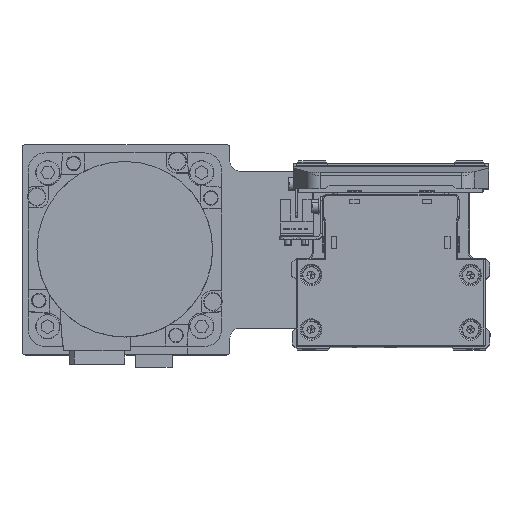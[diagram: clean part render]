
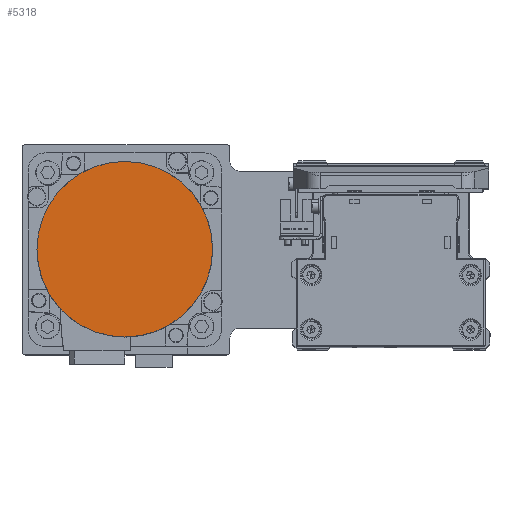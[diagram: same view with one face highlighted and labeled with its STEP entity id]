
A CAD part, top view. The second image highlights one B-rep face of the part: STEP entity #5318.
In plain terms, the highlighted planar face has unit normal (0, 0, 1) as drawn and (0, 0, -1) by its records, which use the part's own axes.
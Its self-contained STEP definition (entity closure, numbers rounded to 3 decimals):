
#457 = AXIS2_PLACEMENT_3D ( 'NONE', #13068, #25088, #37088 ) ;
#1049 = PLANE ( 'NONE',  #457 ) ;
#2005 = EDGE_CURVE ( 'NONE', #27984, #26072, #27057, .T. ) ;
#2622 = DIRECTION ( 'NONE',  ( 0., 0., 1. ) ) ;
#3019 = EDGE_CURVE ( 'NONE', #26072, #27984, #24615, .T. ) ;
#3682 = EDGE_LOOP ( 'NONE', ( #15605, #26890 ) ) ;
#5318 = ADVANCED_FACE ( 'NONE', ( #28031 ), #1049, .F. ) ;
#7619 = AXIS2_PLACEMENT_3D ( 'NONE', #24939, #36947, #9946 ) ;
#9946 = DIRECTION ( 'NONE',  ( 0., 1., 0. ) ) ;
#10065 = AXIS2_PLACEMENT_3D ( 'NONE', #29611, #2622, #14642 ) ;
#12712 = CARTESIAN_POINT ( 'NONE',  ( 0., -36.3, -122.2 ) ) ;
#13068 = CARTESIAN_POINT ( 'NONE',  ( 0., 0., -122.2 ) ) ;
#14642 = DIRECTION ( 'NONE',  ( 0., -1., 0. ) ) ;
#15605 = ORIENTED_EDGE ( 'NONE', *, *, #3019, .F. ) ;
#24615 = CIRCLE ( 'NONE', #7619, 36.3 ) ;
#24939 = CARTESIAN_POINT ( 'NONE',  ( 0., 0., -122.2 ) ) ;
#25088 = DIRECTION ( 'NONE',  ( 0., 0., 1. ) ) ;
#26072 = VERTEX_POINT ( 'NONE', #31910 ) ;
#26890 = ORIENTED_EDGE ( 'NONE', *, *, #2005, .F. ) ;
#27057 = CIRCLE ( 'NONE', #10065, 36.3 ) ;
#27984 = VERTEX_POINT ( 'NONE', #12712 ) ;
#28031 = FACE_OUTER_BOUND ( 'NONE', #3682, .T. ) ;
#29611 = CARTESIAN_POINT ( 'NONE',  ( 0., 0., -122.2 ) ) ;
#31910 = CARTESIAN_POINT ( 'NONE',  ( 0., 36.3, -122.2 ) ) ;
#36947 = DIRECTION ( 'NONE',  ( 0., 0., 1. ) ) ;
#37088 = DIRECTION ( 'NONE',  ( 1., 0., 0. ) ) ;
